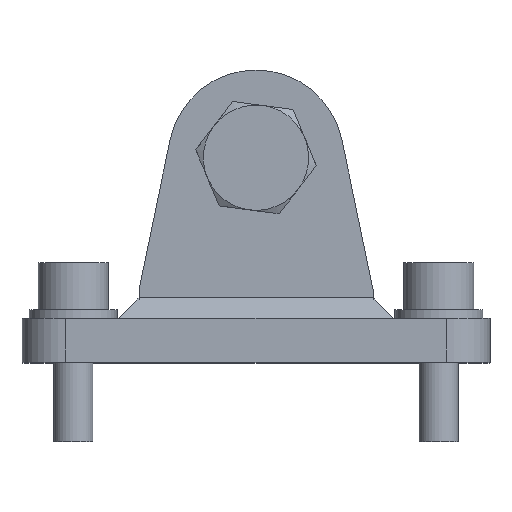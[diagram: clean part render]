
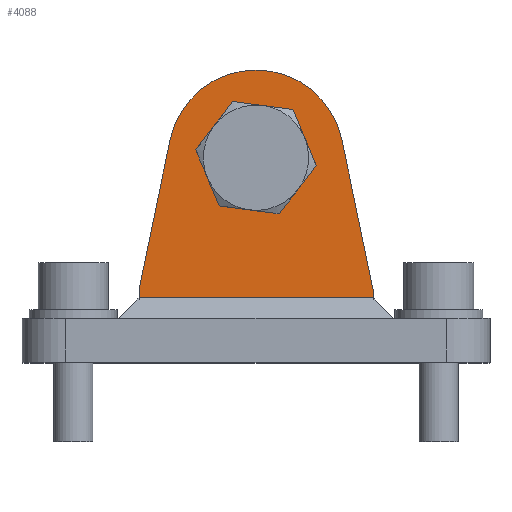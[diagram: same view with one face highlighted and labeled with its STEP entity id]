
A CAD part, top view. The second image highlights one B-rep face of the part: STEP entity #4088.
In plain terms, the highlighted planar face has unit normal (0, 0, 1).
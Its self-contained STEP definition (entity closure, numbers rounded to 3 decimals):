
#9 = EDGE_CURVE ( 'NONE', #2988, #2988, #2712, .T. ) ;
#82 = LINE ( 'NONE', #3839, #8097 ) ;
#163 = FACE_OUTER_BOUND ( 'NONE', #5847, .T. ) ;
#265 = CARTESIAN_POINT ( 'NONE',  ( 40., -55., 30.25 ) ) ;
#609 = CARTESIAN_POINT ( 'NONE',  ( -40., -45., 30.25 ) ) ;
#638 = DIRECTION ( 'NONE',  ( 1., 0., 0. ) ) ;
#675 = VECTOR ( 'NONE', #9251, 1000. ) ;
#692 = EDGE_CURVE ( 'NONE', #4203, #3139, #2419, .T. ) ;
#719 = LINE ( 'NONE', #5290, #4007 ) ;
#911 = CARTESIAN_POINT ( 'NONE',  ( -29.372, 6.108, 30.25 ) ) ;
#1072 = DIRECTION ( 'NONE',  ( 0., 0., -1. ) ) ;
#1141 = EDGE_CURVE ( 'NONE', #3167, #4717, #4156, .T. ) ;
#1196 = EDGE_CURVE ( 'NONE', #7761, #5810, #6782, .T. ) ;
#1220 = VECTOR ( 'NONE', #6477, 1000. ) ;
#1381 = CARTESIAN_POINT ( 'NONE',  ( -40., -55., 30.25 ) ) ;
#1463 = EDGE_LOOP ( 'NONE', ( #8356 ) ) ;
#1584 = AXIS2_PLACEMENT_3D ( 'NONE', #5093, #3624, #9023 ) ;
#1787 = VERTEX_POINT ( 'NONE', #5233 ) ;
#2070 = DIRECTION ( 'NONE',  ( 0., 0., 1. ) ) ;
#2091 = EDGE_CURVE ( 'NONE', #9426, #3167, #8669, .T. ) ;
#2260 = DIRECTION ( 'NONE',  ( 1., 0., 0. ) ) ;
#2389 = VERTEX_POINT ( 'NONE', #6997 ) ;
#2419 = CIRCLE ( 'NONE', #9291, 2. ) ;
#2487 = ORIENTED_EDGE ( 'NONE', *, *, #1196, .F. ) ;
#2611 = CARTESIAN_POINT ( 'NONE',  ( 19.5, -55., 30.25 ) ) ;
#2616 = CARTESIAN_POINT ( 'NONE',  ( -19.5, -57., 30.25 ) ) ;
#2628 = VECTOR ( 'NONE', #3166, 1000. ) ;
#2658 = AXIS2_PLACEMENT_3D ( 'NONE', #2611, #5564, #8472 ) ;
#2669 = CARTESIAN_POINT ( 'NONE',  ( 0., 0., 30.25 ) ) ;
#2712 = CIRCLE ( 'NONE', #4560, 12.5 ) ;
#2973 = CIRCLE ( 'NONE', #1584, 30. ) ;
#2988 = VERTEX_POINT ( 'NONE', #5912 ) ;
#3139 = VERTEX_POINT ( 'NONE', #3970 ) ;
#3153 = CARTESIAN_POINT ( 'NONE',  ( 40., -55., 30.25 ) ) ;
#3166 = DIRECTION ( 'NONE',  ( 0., 1., 0. ) ) ;
#3167 = VERTEX_POINT ( 'NONE', #8894 ) ;
#3246 = ORIENTED_EDGE ( 'NONE', *, *, #4025, .T. ) ;
#3412 = LINE ( 'NONE', #4188, #1220 ) ;
#3624 = DIRECTION ( 'NONE',  ( 0., 0., 1. ) ) ;
#3669 = DIRECTION ( 'NONE',  ( 1., 0., 0. ) ) ;
#3708 = CARTESIAN_POINT ( 'NONE',  ( -19.5, -55., 30.25 ) ) ;
#3722 = LINE ( 'NONE', #9401, #4488 ) ;
#3750 = DIRECTION ( 'NONE',  ( 0., 1., 0. ) ) ;
#3839 = CARTESIAN_POINT ( 'NONE',  ( 19.5, -55., 30.25 ) ) ;
#3970 = CARTESIAN_POINT ( 'NONE',  ( -21.5, -55., 30.25 ) ) ;
#3975 = VERTEX_POINT ( 'NONE', #5997 ) ;
#4007 = VECTOR ( 'NONE', #8895, 1000. ) ;
#4025 = EDGE_CURVE ( 'NONE', #7761, #8836, #8240, .T. ) ;
#4088 = ADVANCED_FACE ( 'NONE', ( #6707, #163 ), #9217, .F. ) ;
#4156 = LINE ( 'NONE', #7073, #675 ) ;
#4188 = CARTESIAN_POINT ( 'NONE',  ( 40., -45., 30.25 ) ) ;
#4203 = VERTEX_POINT ( 'NONE', #2616 ) ;
#4218 = VECTOR ( 'NONE', #5079, 1000. ) ;
#4488 = VECTOR ( 'NONE', #3669, 1000. ) ;
#4560 = AXIS2_PLACEMENT_3D ( 'NONE', #4914, #2070, #638 ) ;
#4602 = EDGE_CURVE ( 'NONE', #5569, #5810, #82, .T. ) ;
#4654 = CARTESIAN_POINT ( 'NONE',  ( 19.5, -57., 30.25 ) ) ;
#4717 = VERTEX_POINT ( 'NONE', #1381 ) ;
#4719 = ORIENTED_EDGE ( 'NONE', *, *, #5732, .T. ) ;
#4811 = CARTESIAN_POINT ( 'NONE',  ( 19.5, -65., 30.25 ) ) ;
#4914 = CARTESIAN_POINT ( 'NONE',  ( 0., 0., 30.25 ) ) ;
#5079 = DIRECTION ( 'NONE',  ( -0.204, -0.979, 0. ) ) ;
#5093 = CARTESIAN_POINT ( 'NONE',  ( 0., 0., 30.25 ) ) ;
#5196 = VECTOR ( 'NONE', #2260, 1000. ) ;
#5233 = CARTESIAN_POINT ( 'NONE',  ( 40., -45., 30.25 ) ) ;
#5290 = CARTESIAN_POINT ( 'NONE',  ( -19.5, -65., 30.25 ) ) ;
#5392 = EDGE_CURVE ( 'NONE', #1787, #2389, #3412, .T. ) ;
#5564 = DIRECTION ( 'NONE',  ( 0., 0., 1. ) ) ;
#5569 = VERTEX_POINT ( 'NONE', #4811 ) ;
#5732 = EDGE_CURVE ( 'NONE', #3975, #5569, #719, .T. ) ;
#5742 = LINE ( 'NONE', #8667, #8154 ) ;
#5810 = VERTEX_POINT ( 'NONE', #4654 ) ;
#5847 = EDGE_LOOP ( 'NONE', ( #9384, #6989, #4719, #8260, #2487, #3246, #7551, #7956, #8754, #8631, #8153, #7724 ) ) ;
#5912 = CARTESIAN_POINT ( 'NONE',  ( 12.5, 0., 30.25 ) ) ;
#5997 = CARTESIAN_POINT ( 'NONE',  ( -19.5, -65., 30.25 ) ) ;
#6477 = DIRECTION ( 'NONE',  ( -0.204, 0.979, 0. ) ) ;
#6707 = FACE_BOUND ( 'NONE', #1463, .T. ) ;
#6782 = CIRCLE ( 'NONE', #2658, 2. ) ;
#6818 = EDGE_CURVE ( 'NONE', #4717, #3139, #3722, .T. ) ;
#6877 = EDGE_CURVE ( 'NONE', #2389, #9426, #2973, .T. ) ;
#6933 = DIRECTION ( 'NONE',  ( -1., 0., 0. ) ) ;
#6989 = ORIENTED_EDGE ( 'NONE', *, *, #8098, .T. ) ;
#6997 = CARTESIAN_POINT ( 'NONE',  ( 29.372, 6.108, 30.25 ) ) ;
#7073 = CARTESIAN_POINT ( 'NONE',  ( -40., -55., 30.25 ) ) ;
#7349 = DIRECTION ( 'NONE',  ( 1., 0., 0. ) ) ;
#7394 = CARTESIAN_POINT ( 'NONE',  ( 40., -55., 30.25 ) ) ;
#7551 = ORIENTED_EDGE ( 'NONE', *, *, #7592, .T. ) ;
#7572 = LINE ( 'NONE', #265, #2628 ) ;
#7592 = EDGE_CURVE ( 'NONE', #8836, #1787, #7572, .T. ) ;
#7724 = ORIENTED_EDGE ( 'NONE', *, *, #6818, .T. ) ;
#7761 = VERTEX_POINT ( 'NONE', #8058 ) ;
#7956 = ORIENTED_EDGE ( 'NONE', *, *, #5392, .T. ) ;
#8041 = DIRECTION ( 'NONE',  ( 0., 0., 1. ) ) ;
#8058 = CARTESIAN_POINT ( 'NONE',  ( 21.5, -55., 30.25 ) ) ;
#8097 = VECTOR ( 'NONE', #3750, 1000. ) ;
#8098 = EDGE_CURVE ( 'NONE', #4203, #3975, #5742, .T. ) ;
#8153 = ORIENTED_EDGE ( 'NONE', *, *, #1141, .T. ) ;
#8154 = VECTOR ( 'NONE', #9163, 1000. ) ;
#8240 = LINE ( 'NONE', #3153, #5196 ) ;
#8260 = ORIENTED_EDGE ( 'NONE', *, *, #4602, .T. ) ;
#8356 = ORIENTED_EDGE ( 'NONE', *, *, #9, .F. ) ;
#8472 = DIRECTION ( 'NONE',  ( 1., 0., 0. ) ) ;
#8631 = ORIENTED_EDGE ( 'NONE', *, *, #2091, .T. ) ;
#8667 = CARTESIAN_POINT ( 'NONE',  ( -19.5, -55., 30.25 ) ) ;
#8669 = LINE ( 'NONE', #609, #4218 ) ;
#8754 = ORIENTED_EDGE ( 'NONE', *, *, #6877, .T. ) ;
#8836 = VERTEX_POINT ( 'NONE', #7394 ) ;
#8894 = CARTESIAN_POINT ( 'NONE',  ( -40., -45., 30.25 ) ) ;
#8895 = DIRECTION ( 'NONE',  ( 1., 0., 0. ) ) ;
#9023 = DIRECTION ( 'NONE',  ( 1., 0., 0. ) ) ;
#9163 = DIRECTION ( 'NONE',  ( 0., -1., 0. ) ) ;
#9217 = PLANE ( 'NONE',  #9427 ) ;
#9251 = DIRECTION ( 'NONE',  ( 0., -1., 0. ) ) ;
#9291 = AXIS2_PLACEMENT_3D ( 'NONE', #3708, #8041, #7349 ) ;
#9384 = ORIENTED_EDGE ( 'NONE', *, *, #692, .F. ) ;
#9401 = CARTESIAN_POINT ( 'NONE',  ( -19.5, -55., 30.25 ) ) ;
#9426 = VERTEX_POINT ( 'NONE', #911 ) ;
#9427 = AXIS2_PLACEMENT_3D ( 'NONE', #2669, #1072, #6933 ) ;
